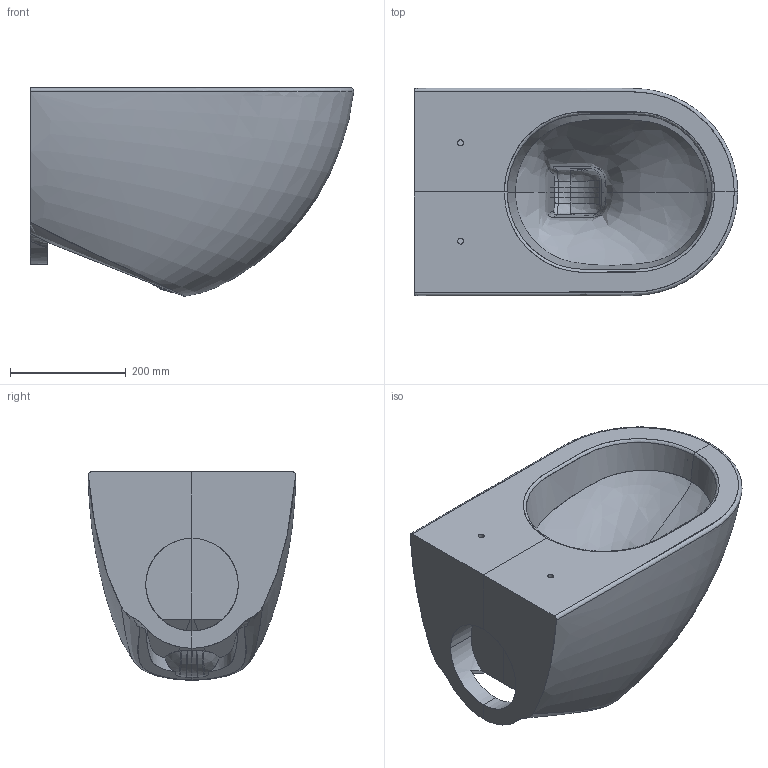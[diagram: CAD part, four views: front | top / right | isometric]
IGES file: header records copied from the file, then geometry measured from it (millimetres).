
Start section: START RECORD GO HERE.
Global section: file name: 7312.igs; native system: DASSAULT SYSTEMES CATIA V5 R19 - www.3ds.com; preprocessor: CATIA Version 5 Release 19 SP 5 ; author: gioge; organization: LAPTOP-G94B6G74; date: 20201002.163229; units: millimetre
Bounding box: 559.22 x 359.48 x 360.22 mm (x, y, z)
Surface area: 928144.4 mm2 (no closed solid volume)
Topology: 0 solids, 0 shells, 125 faces, 519 edges, 517 vertices
Faces by surface type: bspline 99, plane 26
